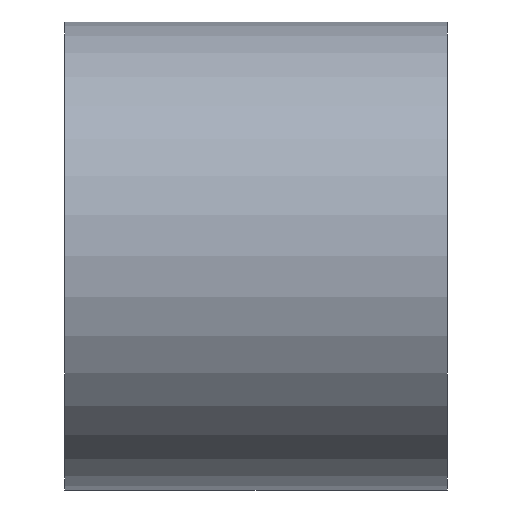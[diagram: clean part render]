
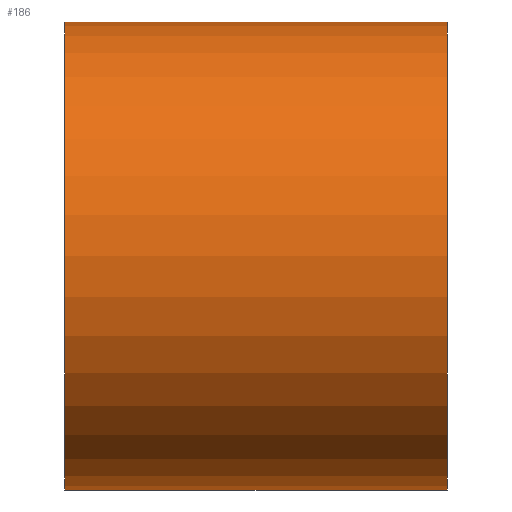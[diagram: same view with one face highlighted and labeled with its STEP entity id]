
A CAD part, front view. The second image highlights one B-rep face of the part: STEP entity #186.
In plain terms, the highlighted cylindrical face has radius 550 mm (diameter 1100 mm), a partial arc.
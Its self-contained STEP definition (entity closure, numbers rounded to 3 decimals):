
#186=ADVANCED_FACE('',(#374),#375,.T.);
#374=FACE_OUTER_BOUND('',#589,.T.);
#375=CYLINDRICAL_SURFACE('',#590,550.0);
#589=EDGE_LOOP('',(#1079,#1080,#1081,#1082));
#590=AXIS2_PLACEMENT_3D('',#1083,#1084,#1085);
#1079=ORIENTED_EDGE('',*,*,#1167,.T.);
#1080=ORIENTED_EDGE('',*,*,#1373,.F.);
#1081=ORIENTED_EDGE('',*,*,#1169,.T.);
#1082=ORIENTED_EDGE('',*,*,#1374,.F.);
#1083=CARTESIAN_POINT('',(0.0,0.0,0.0));
#1084=DIRECTION('',(1.0,0.0,0.0));
#1085=DIRECTION('',(0.0,0.0,-1.0));
#1167=EDGE_CURVE('',#1378,#1379,#1380,.T.);
#1169=EDGE_CURVE('',#1383,#1381,#1384,.T.);
#1373=EDGE_CURVE('',#1383,#1379,#1687,.T.);
#1374=EDGE_CURVE('',#1378,#1381,#1688,.T.);
#1378=VERTEX_POINT('',#1692);
#1379=VERTEX_POINT('',#1693);
#1380=LINE('',#1694,#1695);
#1381=VERTEX_POINT('',#1696);
#1383=VERTEX_POINT('',#1698);
#1384=LINE('',#1699,#1700);
#1687=CIRCLE('',#2063,550.0);
#1688=CIRCLE('',#2064,550.0);
#1692=CARTESIAN_POINT('',(-450.0,0.0,-550.0));
#1693=CARTESIAN_POINT('',(450.0,0.0,-550.0));
#1694=CARTESIAN_POINT('',(0.0,0.,-550.0));
#1695=VECTOR('',#2067,1.0);
#1696=CARTESIAN_POINT('',(-450.0,0.,550.0));
#1698=CARTESIAN_POINT('',(450.0,0.,550.0));
#1699=CARTESIAN_POINT('',(0.0,0.,550.0));
#1700=VECTOR('',#2071,1.0);
#2063=AXIS2_PLACEMENT_3D('',#2402,#2403,#2404);
#2064=AXIS2_PLACEMENT_3D('',#2405,#2406,#2407);
#2067=DIRECTION('',(1.0,0.0,0.0));
#2071=DIRECTION('',(-1.0,-0.0,-0.0));
#2402=CARTESIAN_POINT('',(450.0,0.0,0.0));
#2403=DIRECTION('',(1.0,0.0,0.0));
#2404=DIRECTION('',(0.0,0.0,-1.0));
#2405=CARTESIAN_POINT('',(-450.0,0.0,0.0));
#2406=DIRECTION('',(-1.0,0.0,0.0));
#2407=DIRECTION('',(0.0,0.0,-1.0));
